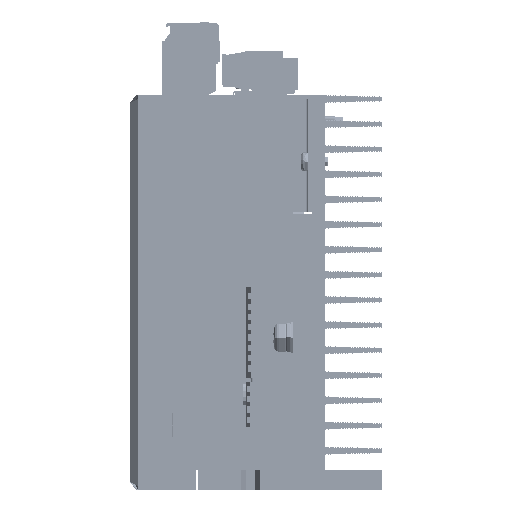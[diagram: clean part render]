
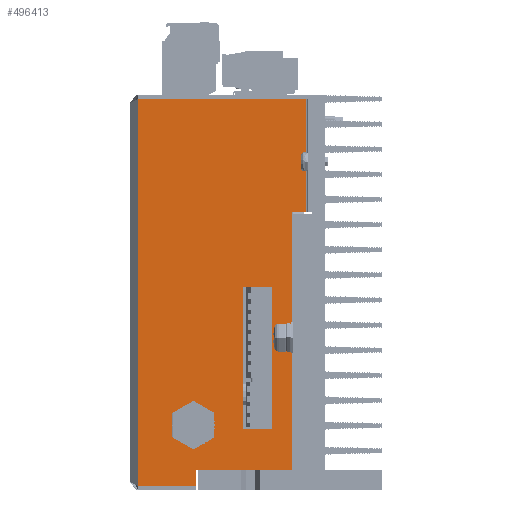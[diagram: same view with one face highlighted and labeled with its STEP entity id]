
A CAD part, left-side view. The second image highlights one B-rep face of the part: STEP entity #496413.
In plain terms, the highlighted planar face has unit normal (-1, 0, 0).
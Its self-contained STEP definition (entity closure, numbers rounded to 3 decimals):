
#494309=DIRECTION('',(0.,0.,1.));
#494310=VECTOR('',#494309,95.5);
#494311=CARTESIAN_POINT('',(-73.,43.,-47.75));
#494312=LINE('',#494311,#494310);
#494320=CARTESIAN_POINT('',(-73.,43.,-47.75));
#494329=CARTESIAN_POINT('',(-73.,43.,47.75));
#494493=DIRECTION('',(0.,-1.,0.));
#494494=VECTOR('',#494493,15.);
#494495=CARTESIAN_POINT('',(-73.,20.,-43.75));
#494496=LINE('',#494495,#494494);
#494497=DIRECTION('',(0.,0.,-1.));
#494498=VECTOR('',#494497,2.);
#494499=CARTESIAN_POINT('',(-73.,20.,-43.75));
#494500=LINE('',#494499,#494498);
#494501=DIRECTION('',(0.,1.,0.));
#494502=VECTOR('',#494501,3.5);
#494503=CARTESIAN_POINT('',(-73.,20.,-45.75));
#494504=LINE('',#494503,#494502);
#494505=DIRECTION('',(0.,0.,1.));
#494506=VECTOR('',#494505,2.);
#494507=CARTESIAN_POINT('',(-73.,23.5,-45.75));
#494508=LINE('',#494507,#494506);
#494509=DIRECTION('',(0.,-1.,0.));
#494510=VECTOR('',#494509,5.2);
#494511=CARTESIAN_POINT('',(-73.,28.7,-43.75));
#494512=LINE('',#494511,#494510);
#494513=DIRECTION('',(0.,0.,1.));
#494514=VECTOR('',#494513,4.);
#494515=CARTESIAN_POINT('',(-73.,28.7,-47.75));
#494516=LINE('',#494515,#494514);
#494517=DIRECTION('',(0.,1.,0.));
#494518=VECTOR('',#494517,14.3);
#494519=CARTESIAN_POINT('',(-73.,28.7,-47.75));
#494520=LINE('',#494519,#494518);
#494521=DIRECTION('',(0.,1.,0.));
#494522=VECTOR('',#494521,3.5);
#494523=CARTESIAN_POINT('',(-73.,1.5,19.75));
#494524=LINE('',#494523,#494522);
#494525=DIRECTION('',(0.,0.,1.));
#494526=VECTOR('',#494525,63.5);
#494527=CARTESIAN_POINT('',(-73.,5.,-43.75));
#494528=LINE('',#494527,#494526);
#494529=CARTESIAN_POINT('',(-73.,29.3,-32.75));
#494530=DIRECTION('',(-1.,0.,0.));
#494531=DIRECTION('',(0.,0.,-1.));
#494532=AXIS2_PLACEMENT_3D('',#494529,#494530,#494531);
#494534=CARTESIAN_POINT('',(-73.,29.3,-32.75));
#494535=DIRECTION('',(-1.,0.,0.));
#494536=DIRECTION('',(0.,0.,1.));
#494537=AXIS2_PLACEMENT_3D('',#494534,#494535,#494536);
#494539=DIRECTION('',(0.,0.,1.));
#494540=VECTOR('',#494539,35.);
#494541=CARTESIAN_POINT('',(-73.,17.,-33.75));
#494542=LINE('',#494541,#494540);
#494543=DIRECTION('',(0.,1.,0.));
#494544=VECTOR('',#494543,7.);
#494545=CARTESIAN_POINT('',(-73.,10.,-33.75));
#494546=LINE('',#494545,#494544);
#494547=DIRECTION('',(0.,0.,-1.));
#494548=VECTOR('',#494547,35.);
#494549=CARTESIAN_POINT('',(-73.,10.,1.25));
#494550=LINE('',#494549,#494548);
#494551=DIRECTION('',(0.,-1.,0.));
#494552=VECTOR('',#494551,7.);
#494553=CARTESIAN_POINT('',(-73.,17.,1.25));
#494554=LINE('',#494553,#494552);
#494642=DIRECTION('',(0.,0.,-1.));
#494643=VECTOR('',#494642,28.);
#494644=CARTESIAN_POINT('',(-73.,1.5,47.75));
#494645=LINE('',#494644,#494643);
#494663=DIRECTION('',(0.,1.,0.));
#494664=VECTOR('',#494663,41.5);
#494665=CARTESIAN_POINT('',(-73.,1.5,47.75));
#494666=LINE('',#494665,#494664);
#495547=VERTEX_POINT('',#494329);
#495553=VERTEX_POINT('',#494320);
#495587=CARTESIAN_POINT('',(-73.,28.7,-47.75));
#495588=CARTESIAN_POINT('',(-73.,28.7,-43.75));
#495589=VERTEX_POINT('',#495587);
#495590=VERTEX_POINT('',#495588);
#495591=CARTESIAN_POINT('',(-73.,5.,-43.75));
#495592=CARTESIAN_POINT('',(-73.,5.,19.75));
#495593=VERTEX_POINT('',#495591);
#495594=VERTEX_POINT('',#495592);
#495651=CARTESIAN_POINT('',(-73.,1.5,47.75));
#495652=VERTEX_POINT('',#495651);
#495653=CARTESIAN_POINT('',(-73.,1.5,19.75));
#495654=VERTEX_POINT('',#495653);
#495775=CARTESIAN_POINT('',(-73.,29.3,-38.75));
#495776=CARTESIAN_POINT('',(-73.,29.3,-26.75));
#495777=VERTEX_POINT('',#495775);
#495778=VERTEX_POINT('',#495776);
#495799=CARTESIAN_POINT('',(-73.,20.,-43.75));
#495800=CARTESIAN_POINT('',(-73.,20.,-45.75));
#495801=VERTEX_POINT('',#495799);
#495802=VERTEX_POINT('',#495800);
#495803=CARTESIAN_POINT('',(-73.,23.5,-45.75));
#495804=VERTEX_POINT('',#495803);
#495805=CARTESIAN_POINT('',(-73.,23.5,-43.75));
#495806=VERTEX_POINT('',#495805);
#495815=CARTESIAN_POINT('',(-73.,17.,-33.75));
#495816=CARTESIAN_POINT('',(-73.,17.,1.25));
#495817=VERTEX_POINT('',#495815);
#495818=VERTEX_POINT('',#495816);
#495819=CARTESIAN_POINT('',(-73.,10.,1.25));
#495820=VERTEX_POINT('',#495819);
#495821=CARTESIAN_POINT('',(-73.,10.,-33.75));
#495822=VERTEX_POINT('',#495821);
#496369=CARTESIAN_POINT('',(-73.,0.,-48.75));
#496370=DIRECTION('',(-1.,0.,0.));
#496371=DIRECTION('',(0.,0.,1.));
#496372=AXIS2_PLACEMENT_3D('',#496369,#496370,#496371);
#496373=PLANE('',#496372);
#496375=ORIENTED_EDGE('',*,*,#496374,.F.);
#496377=ORIENTED_EDGE('',*,*,#496376,.T.);
#496379=ORIENTED_EDGE('',*,*,#496378,.T.);
#496381=ORIENTED_EDGE('',*,*,#496380,.T.);
#496383=ORIENTED_EDGE('',*,*,#496382,.F.);
#496384=ORIENTED_EDGE('',*,*,#496359,.F.);
#496385=ORIENTED_EDGE('',*,*,#496349,.T.);
#496386=ORIENTED_EDGE('',*,*,#495887,.T.);
#496388=ORIENTED_EDGE('',*,*,#496387,.F.);
#496390=ORIENTED_EDGE('',*,*,#496389,.T.);
#496392=ORIENTED_EDGE('',*,*,#496391,.T.);
#496394=ORIENTED_EDGE('',*,*,#496393,.F.);
#496395=EDGE_LOOP('',(#496375,#496377,#496379,#496381,#496383,#496384,#496385,
#496386,#496388,#496390,#496392,#496394));
#496396=FACE_OUTER_BOUND('',#496395,.F.);
#496398=ORIENTED_EDGE('',*,*,#496397,.T.);
#496400=ORIENTED_EDGE('',*,*,#496399,.T.);
#496401=EDGE_LOOP('',(#496398,#496400));
#496402=FACE_BOUND('',#496401,.F.);
#496404=ORIENTED_EDGE('',*,*,#496403,.F.);
#496406=ORIENTED_EDGE('',*,*,#496405,.F.);
#496408=ORIENTED_EDGE('',*,*,#496407,.F.);
#496410=ORIENTED_EDGE('',*,*,#496409,.F.);
#496411=EDGE_LOOP('',(#496404,#496406,#496408,#496410));
#496412=FACE_BOUND('',#496411,.F.);
#496413=ADVANCED_FACE('',(#496396,#496402,#496412),#496373,.T.);
#494533=CIRCLE('',#494532,6.);
#494538=CIRCLE('',#494537,6.);
#495887=EDGE_CURVE('',#495553,#495547,#494312,.T.);
#496349=EDGE_CURVE('',#495589,#495553,#494520,.T.);
#496359=EDGE_CURVE('',#495589,#495590,#494516,.T.);
#496374=EDGE_CURVE('',#495801,#495593,#494496,.T.);
#496376=EDGE_CURVE('',#495801,#495802,#494500,.T.);
#496378=EDGE_CURVE('',#495802,#495804,#494504,.T.);
#496380=EDGE_CURVE('',#495804,#495806,#494508,.T.);
#496382=EDGE_CURVE('',#495590,#495806,#494512,.T.);
#496387=EDGE_CURVE('',#495652,#495547,#494666,.T.);
#496389=EDGE_CURVE('',#495652,#495654,#494645,.T.);
#496391=EDGE_CURVE('',#495654,#495594,#494524,.T.);
#496393=EDGE_CURVE('',#495593,#495594,#494528,.T.);
#496397=EDGE_CURVE('',#495777,#495778,#494533,.T.);
#496399=EDGE_CURVE('',#495778,#495777,#494538,.T.);
#496403=EDGE_CURVE('',#495817,#495818,#494542,.T.);
#496405=EDGE_CURVE('',#495822,#495817,#494546,.T.);
#496407=EDGE_CURVE('',#495820,#495822,#494550,.T.);
#496409=EDGE_CURVE('',#495818,#495820,#494554,.T.);
